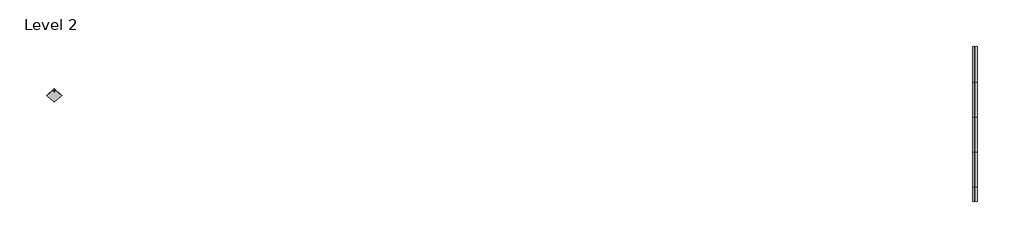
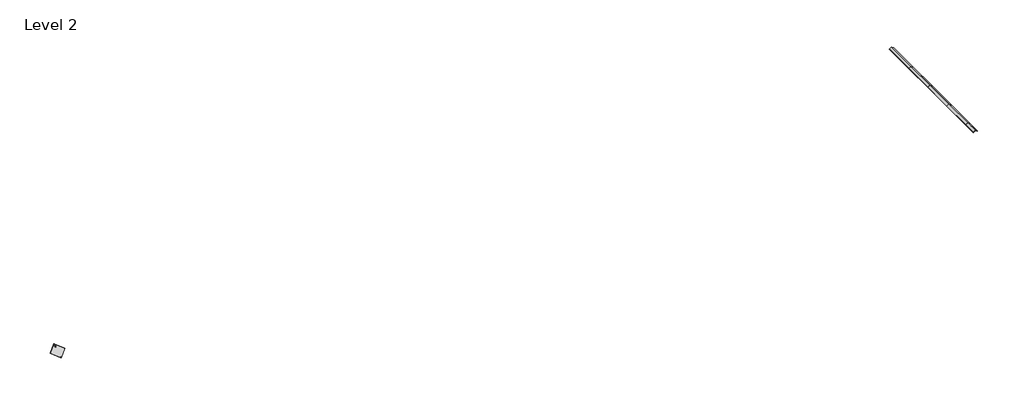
# One storey: 10 beams, 1 proxy.
"""IFC4 building model written with IfcOpenShell, lengths in millimetres."""

from ifc_helpers import new_model, si_unit, origin, place, context, project, spatial, transform, mapped, element, save
from components import structural_framing_105_structural_framing_15_bbb8b2a2, structural_framing_155_structural_framing_15_fbad98d9, structural_framing_156_structural_framing_15_8572bb24, structural_framing_159_structural_framing_15_e730e61d, structural_framing_100_structural_framing_15_5def26a6, structural_framing_109_structural_framing_15_08dff260, roofing_panels_sunstyle_tile_non_pv_shingle_non_pv_shingle_be952c39

model = new_model("IFC4")

# Units and contexts
model_context = context("Model", 3, world=origin())
ifc_project = project(units=[si_unit("LENGTHUNIT", "METRE", prefix="MILLI")], contexts=[model_context])

# Site, building, storey
site = spatial("IfcSite", under=ifc_project)
building = spatial("IfcBuilding", under=site)
storey = spatial("IfcBuildingStorey", under=building, Name="Level 2", Elevation=2687.5)

# Beams
placement = place(None, origin())
structural_framing_105_structural_framing_15_shape = structural_framing_105_structural_framing_15_bbb8b2a2(model_context)
element("IfcBeam", 1, ObjectType="Structural Framing 15 : Structural Framing 15", at=placement, inside=storey, context=model_context, shape_type="MappedRepresentation", body=[
    mapped(structural_framing_105_structural_framing_15_shape, transform((0.0, 0.0, 0.0), x_axis=(1.0, 0.0, 0.0), y_axis=(0.0, 1.0, 0.0), z_axis=(0.0, 0.0, 1.0))),
])
structural_framing_155_structural_framing_15_shape = structural_framing_155_structural_framing_15_fbad98d9(model_context)
element("IfcBeam", 2, ObjectType="Structural Framing 155 : Structural Framing 15", at=placement, inside=storey, context=model_context, shape_type="MappedRepresentation", body=[
    mapped(structural_framing_155_structural_framing_15_shape, transform((0.0, 0.0, 0.0), x_axis=(1.0, 0.0, 0.0), y_axis=(0.0, 1.0, 0.0), z_axis=(0.0, 0.0, 1.0))),
])
structural_framing_156_structural_framing_15_shape = structural_framing_156_structural_framing_15_8572bb24(model_context)
element("IfcBeam", 3, ObjectType="Structural Framing 156 : Structural Framing 15", at=placement, inside=storey, context=model_context, shape_type="MappedRepresentation", body=[
    mapped(structural_framing_156_structural_framing_15_shape, transform((0.0, -2470.0, 0.0), x_axis=(1.0, 0.0, 0.0), y_axis=(0.0, 1.0, 0.0), z_axis=(0.0, 0.0, 1.0))),
])
element("IfcBeam", 4, ObjectType="Structural Framing 157 : Structural Framing 15", at=placement, inside=storey, context=model_context, shape_type="MappedRepresentation", body=[
    mapped(structural_framing_156_structural_framing_15_shape, transform((0.0, -4870.0, 0.0), x_axis=(1.0, 0.0, 0.0), y_axis=(0.0, 1.0, 0.0), z_axis=(0.0, 0.0, 1.0))),
])
element("IfcBeam", 5, ObjectType="Structural Framing 158 : Structural Framing 15", at=placement, inside=storey, context=model_context, shape_type="MappedRepresentation", body=[
    mapped(structural_framing_156_structural_framing_15_shape, transform((0.0, -7270.0, 0.0), x_axis=(1.0, 0.0, 0.0), y_axis=(0.0, 1.0, 0.0), z_axis=(0.0, 0.0, 1.0))),
])
structural_framing_159_structural_framing_15_shape = structural_framing_159_structural_framing_15_e730e61d(model_context)
element("IfcBeam", 6, ObjectType="Structural Framing 159 : Structural Framing 15", at=placement, inside=storey, context=model_context, shape_type="MappedRepresentation", body=[
    mapped(structural_framing_159_structural_framing_15_shape, transform((0.0, -9670.0, 0.0), x_axis=(1.0, 0.0, 0.0), y_axis=(0.0, 1.0, 0.0), z_axis=(0.0, 0.0, 1.0))),
])
structural_framing_100_structural_framing_15_shape = structural_framing_100_structural_framing_15_5def26a6(model_context)
element("IfcBeam", 7, ObjectType="Structural Framing 16 : Structural Framing 15", at=placement, inside=storey, context=model_context, shape_type="MappedRepresentation", body=[
    mapped(structural_framing_100_structural_framing_15_shape, transform((0.0, -2470.0, 0.0), x_axis=(1.0, 0.0, 0.0), y_axis=(0.0, 1.0, 0.0), z_axis=(0.0, 0.0, 1.0))),
])
element("IfcBeam", 8, ObjectType="Structural Framing 17 : Structural Framing 15", at=placement, inside=storey, context=model_context, shape_type="MappedRepresentation", body=[
    mapped(structural_framing_100_structural_framing_15_shape, transform((0.0, -4870.0, 0.0), x_axis=(1.0, 0.0, 0.0), y_axis=(0.0, 1.0, 0.0), z_axis=(0.0, 0.0, 1.0))),
])
element("IfcBeam", 9, ObjectType="Structural Framing 18 : Structural Framing 15", at=placement, inside=storey, context=model_context, shape_type="MappedRepresentation", body=[
    mapped(structural_framing_100_structural_framing_15_shape, transform((0.0, -7270.0, 0.0), x_axis=(1.0, 0.0, 0.0), y_axis=(0.0, 1.0, 0.0), z_axis=(0.0, 0.0, 1.0))),
])
structural_framing_109_structural_framing_15_shape = structural_framing_109_structural_framing_15_08dff260(model_context)
element("IfcBeam", 10, ObjectType="Structural Framing 19 : Structural Framing 15", at=placement, inside=storey, context=model_context, shape_type="MappedRepresentation", body=[
    mapped(structural_framing_109_structural_framing_15_shape, transform((0.0, -9670.0, 0.0), x_axis=(1.0, 0.0, 0.0), y_axis=(0.0, 1.0, 0.0), z_axis=(0.0, 0.0, 1.0))),
])

# Proxy
roofing_panels_sunstyle_tile_non_pv_shingle_non_pv_shingle_shape = roofing_panels_sunstyle_tile_non_pv_shingle_non_pv_shingle_be952c39(model_context)
element("IfcBuildingElementProxy", 11, Name="Roofing_Panels_SunStyle_Tile_Non-PV-Shingle : Non PV Shingle - Silver", ObjectType="Roofing_Panels_SunStyle_Tile_Non-PV-Shingle : Non PV Shingle - Silver", at=placement, inside=storey, context=model_context, shape_type="MappedRepresentation", body=[
    mapped(roofing_panels_sunstyle_tile_non_pv_shingle_non_pv_shingle_shape, transform((-61887.8645932, 574.8326321, 3418.1219144), x_axis=(1.0, 0.0, 0.0), y_axis=(0.0, 0.866025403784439, 0.49999999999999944), z_axis=(0.0, -0.49999999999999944, 0.866025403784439))),
])

save(model, "model.ifc")
